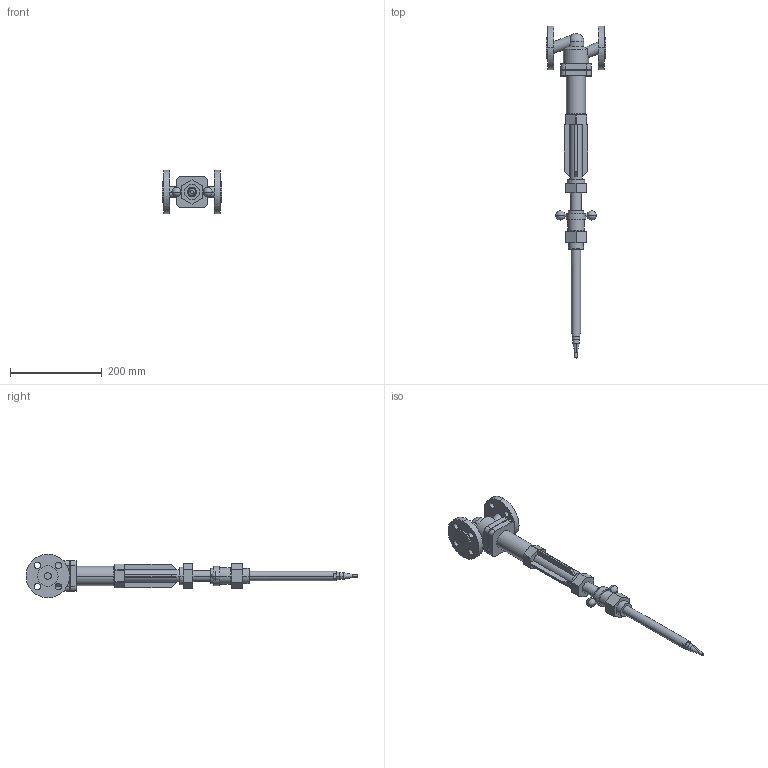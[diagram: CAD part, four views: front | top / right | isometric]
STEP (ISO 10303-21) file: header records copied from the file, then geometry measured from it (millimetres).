
FILE_DESCRIPTION(('CoCreate Modeling STEP Export'),'2;1');
FILE_NAME('c000001248.stp','2011-09-22T11:16:13',(''),(''),'CoCreate Modeling STEP processor for AP214 (Solid Model)','CoCreate Modeling 17.0 01-Apr-2010 (C) Parametric Technology GmbH','');
FILE_SCHEMA(('AUTOMOTIVE_DESIGN { 1 0 10303 214 1 1 1 1 }'));
Length unit declared in the file: millimetre
Products named in the file (1): 1
Bounding box: 130 x 723.65 x 95 mm (x, y, z)
Volume: 920812.4 mm3; surface area: 147239.6 mm2
Topology: 1 solids, 1 shells, 202 faces, 507 edges, 324 vertices
Faces by surface type: plane 92, cylinder 90, cone 10, sphere 10
Entity records: 8975 total; most frequent: CARTESIAN_POINT 2869, ORIENTED_EDGE 994, DIRECTION 834, EDGE_CURVE 497, VERTEX_POINT 324, AXIS2_PLACEMENT_3D 290, VECTOR 254, LINE 254
